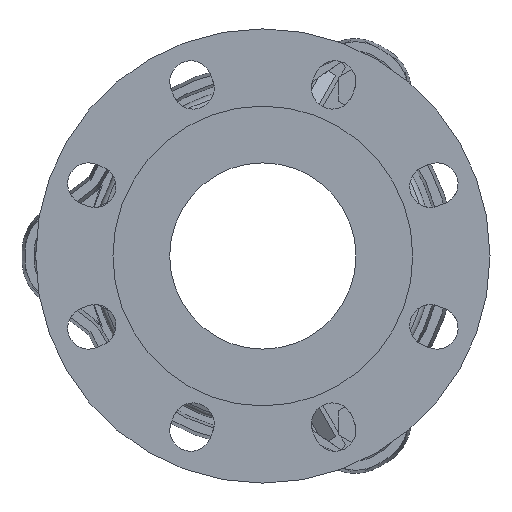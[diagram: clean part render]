
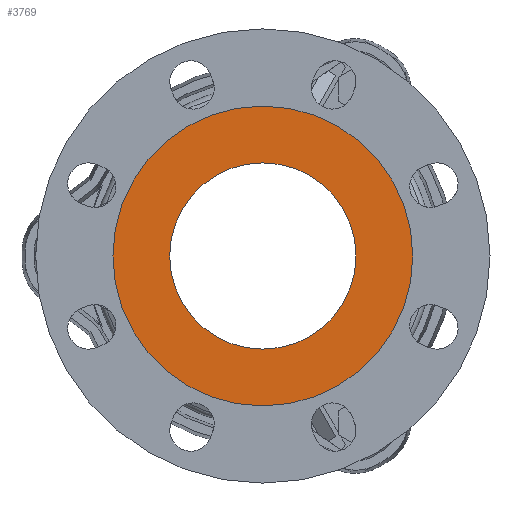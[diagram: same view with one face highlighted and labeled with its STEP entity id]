
A CAD part, left-side view. The second image highlights one B-rep face of the part: STEP entity #3769.
In plain terms, the highlighted planar face has unit normal (-1, 0, 0).
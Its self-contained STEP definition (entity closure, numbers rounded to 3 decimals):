
#904=CARTESIAN_POINT('',(-105.,0.,0.));
#905=DIRECTION('',(1.,0.,0.));
#906=DIRECTION('',(0.,-1.,0.));
#907=AXIS2_PLACEMENT_3D('',#904,#905,#906);
#913=CARTESIAN_POINT('',(-105.,0.,0.));
#914=DIRECTION('',(1.,0.,0.));
#915=DIRECTION('',(0.,0.5,-0.866));
#916=AXIS2_PLACEMENT_3D('',#913,#914,#915);
#918=CARTESIAN_POINT('',(-105.,0.,0.));
#919=DIRECTION('',(1.,0.,0.));
#920=DIRECTION('',(0.,0.5,-0.866));
#921=AXIS2_PLACEMENT_3D('',#918,#919,#920);
#923=CARTESIAN_POINT('',(-105.,0.,0.));
#924=DIRECTION('',(1.,0.,0.));
#925=DIRECTION('',(0.,-1.,0.));
#926=AXIS2_PLACEMENT_3D('',#923,#924,#925);
#2231=CARTESIAN_POINT('',(-105.,33.,-57.158));
#2233=VERTEX_POINT('',#2231);
#2235=CARTESIAN_POINT('',(-105.,20.5,-35.507));
#2237=VERTEX_POINT('',#2235);
#2259=CARTESIAN_POINT('',(-105.,-66.,0.));
#2261=VERTEX_POINT('',#2259);
#2263=CARTESIAN_POINT('',(-105.,-41.,0.));
#2265=VERTEX_POINT('',#2263);
#3754=CARTESIAN_POINT('',(-105.,0.,0.));
#3755=DIRECTION('',(1.,0.,0.));
#3756=DIRECTION('',(0.,-0.5,0.866));
#3757=AXIS2_PLACEMENT_3D('',#3754,#3755,#3756);
#3758=PLANE('',#3757);
#3760=ORIENTED_EDGE('',*,*,#3759,.T.);
#3762=ORIENTED_EDGE('',*,*,#3761,.T.);
#3763=EDGE_LOOP('',(#3760,#3762));
#3764=FACE_OUTER_BOUND('',#3763,.F.);
#3765=ORIENTED_EDGE('',*,*,#3747,.F.);
#3766=ORIENTED_EDGE('',*,*,#3736,.F.);
#3767=EDGE_LOOP('',(#3765,#3766));
#3768=FACE_BOUND('',#3767,.F.);
#3769=ADVANCED_FACE('',(#3764,#3768),#3758,.F.);
#908=CIRCLE('',#907,41.);
#917=CIRCLE('',#916,41.);
#922=CIRCLE('',#921,66.);
#927=CIRCLE('',#926,66.);
#3736=EDGE_CURVE('',#2265,#2237,#908,.T.);
#3747=EDGE_CURVE('',#2237,#2265,#917,.T.);
#3759=EDGE_CURVE('',#2233,#2261,#922,.T.);
#3761=EDGE_CURVE('',#2261,#2233,#927,.T.);
